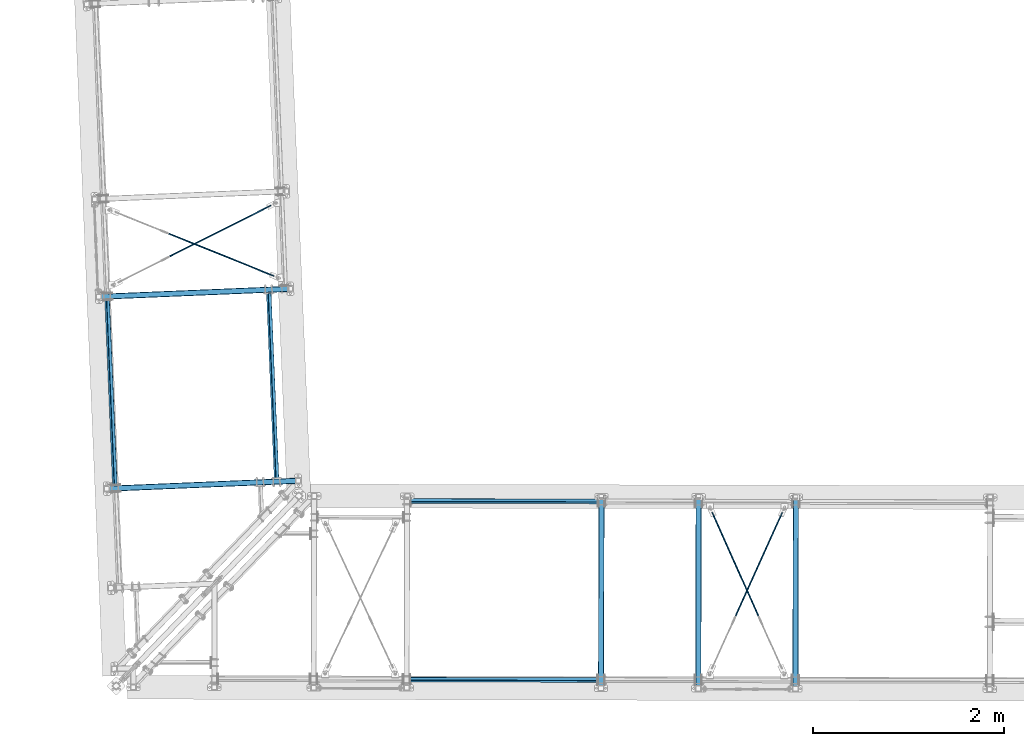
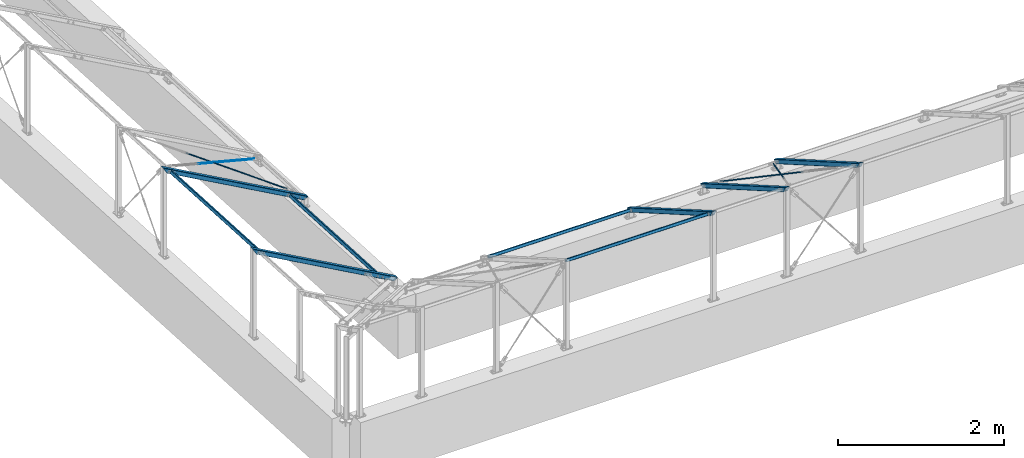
# One storey, part 11 of 288: 11 members, 2 beams, 48 openings.
"""IFC2X3 building model written with IfcOpenShell, lengths in millimetres."""

from ifc_helpers import new_model, entity, si_unit, converted_unit, frame, frame_2d, origin, origin_with_axes, origin_2d, place, context, project, spatial, hollow_rectangle, circle, extrude, clip, halfspace, material, element, save


model = new_model("IFC2X3")

# Units and contexts
model_context = context("Model", 3, precision=1e-09, world=origin_with_axes())
ifc_project = project(units=[si_unit("LENGTHUNIT", "METRE", prefix="MILLI"), si_unit("AREAUNIT", "SQUARE_METRE"), si_unit("VOLUMEUNIT", "CUBIC_METRE"), converted_unit("PLANEANGLEUNIT", "DEGREE", entity("IfcPlaneAngleMeasure", 0.01745329), si_unit("PLANEANGLEUNIT", "RADIAN"), dimensions=[0, 0, 0, 0, 0, 0, 0])], contexts=[model_context])

# Site, building, storey
site_placement = place(None, origin_with_axes())
site = spatial("IfcSite", under=ifc_project, at=site_placement, Name="Remont ?wietlik?w nad MC w NCPP w Opolu", CompositionType="ELEMENT")
building_placement = place(site_placement, origin_with_axes())
building = spatial("IfcBuilding", under=site, at=building_placement, Name="Konstrukcja 1", CompositionType="ELEMENT")
storey_placement = place(building_placement, origin_with_axes())
storey = spatial("IfcBuildingStorey", under=building, at=storey_placement, Name="Default Storey", CompositionType="ELEMENT", Elevation=0.0)

# Member
ifc_material_1 = material(Name="S235")
member_1_placement = place(None, frame((1573.150297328, 2069.777775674, 236.909271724), z_axis=(0.041662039, -0.99913176, -1.7444e-05), x_axis=(0.8652733, 0.036089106, -0.499999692)))
element("IfcMember", 1, at=member_1_placement, inside=storey, material=ifc_material_1, Name="TubeBracing", ObjectType="TubeBracing", context=model_context, shape_type="SweptSolid", body=[
    extrude(hollow_rectangle(XDim=40.0, YDim=40.0, WallThickness=3.0, InnerFilletRadius=3.0, OuterFilletRadius=6.0, at=origin_2d()), origin(), (0.0, 0.0, -1.0), 1936.778831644),
])

# Member, openings
member_2_placement = place(None, frame((-364.054229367, 3966.477681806, 1312.426370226), z_axis=(-0.865273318, -0.036088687, 0.499999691), x_axis=(-0.499565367, -0.020835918, -0.866025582)))
member_2 = element("IfcMember", 2, at=member_2_placement, inside=storey, material=ifc_material_1, Name="Horizontal_Beam", ObjectType="Horizontal_Beam", context=model_context, shape_type="Clipping", body=[
    clip(clip(extrude(hollow_rectangle(XDim=60.0, YDim=60.0, WallThickness=3.0, InnerFilletRadius=3.0, OuterFilletRadius=6.0, at=origin_2d()), origin(), (0.0, 0.0, -1.0), 2454.508604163), halfspace(frame((1461.081476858, 3978.202794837, -1561.961589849), z_axis=(-0.500000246, 0.0, 0.866025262), x_axis=(1.22e-07, 1.0, 0.0)), True)), halfspace(frame((581.166779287, 3978.202901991, -1091.464010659), z_axis=(-0.866025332, 1.05e-07, -0.500000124), x_axis=(-1.22e-07, -1.0, 0.0)), True)),
])
opening_1_placement = place(member_2_placement, frame((3.04424477, 26.5, -2312.551958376), z_axis=(0.0, -1.0, 0.0), x_axis=(1.0, 0.0, 0.0)))
element("IfcOpeningElement", 3, at=opening_1_placement, cuts=member_2, ObjectType="Opening", context=model_context, shape_type="SweptSolid", body=[
    extrude(circle(Radius=7.001, at=frame_2d((0.0, 7.001), x_axis=(1.0, 0.0))), origin(), (0.0, 0.0, -1.0), 4.0),
])
opening_2_placement = place(member_2_placement, frame((3.04424477, 26.5, -2392.551958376), z_axis=(0.0, -1.0, 0.0), x_axis=(1.0, 0.0, 0.0)))
element("IfcOpeningElement", 4, at=opening_2_placement, cuts=member_2, ObjectType="Opening", context=model_context, shape_type="SweptSolid", body=[
    extrude(circle(Radius=7.001, at=frame_2d((0.0, 7.001), x_axis=(1.0, 0.0))), origin(), (0.0, 0.0, -1.0), 4.0),
])
opening_3_placement = place(member_2_placement, frame((3.04424477, -30.5, -2312.551958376), z_axis=(0.0, -1.0, 0.0), x_axis=(1.0, 0.0, 0.0)))
element("IfcOpeningElement", 5, at=opening_3_placement, cuts=member_2, ObjectType="Opening", context=model_context, shape_type="SweptSolid", body=[
    extrude(circle(Radius=7.001, at=frame_2d((0.0, 7.001), x_axis=(1.0, 0.0))), origin(), (0.0, 0.0, -1.0), 4.0),
])
opening_4_placement = place(member_2_placement, frame((3.04424477, -30.5, -2392.551958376), z_axis=(0.0, -1.0, 0.0), x_axis=(1.0, 0.0, 0.0)))
element("IfcOpeningElement", 6, at=opening_4_placement, cuts=member_2, ObjectType="Opening", context=model_context, shape_type="SweptSolid", body=[
    extrude(circle(Radius=7.001, at=frame_2d((0.0, 7.001), x_axis=(1.0, 0.0))), origin(), (0.0, 0.0, -1.0), 4.0),
])
opening_5_placement = place(member_2_placement, frame((7.044933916, 26.499732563, -144.777628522), z_axis=(-2.0054e-05, -1.0, 4.2e-07), x_axis=(1.0, -2.0054e-05, 0.0)))
element("IfcOpeningElement", 7, at=opening_5_placement, cuts=member_2, ObjectType="Opening", context=model_context, shape_type="SweptSolid", body=[
    extrude(circle(Radius=7.001, at=frame_2d((-7.001, -4e-09), x_axis=(1.0, 0.0))), origin(), (0.0, 0.0, -1.0), 4.000264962),
])
opening_6_placement = place(member_2_placement, frame((7.043790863, -30.500267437, -144.77760456), z_axis=(-2.0054e-05, -1.0, 4.2e-07), x_axis=(1.0, -2.0054e-05, 0.0)))
element("IfcOpeningElement", 8, at=opening_6_placement, cuts=member_2, ObjectType="Opening", context=model_context, shape_type="SweptSolid", body=[
    extrude(circle(Radius=7.001, at=frame_2d((-7.001, -4e-09), x_axis=(1.0, 0.0))), origin(), (0.0, 0.0, -1.0), 4.000264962),
])
opening_7_placement = place(member_2_placement, frame((7.044933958, 26.499732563, -224.777628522), z_axis=(-2.0054e-05, -1.0, 4.2e-07), x_axis=(1.0, -2.0054e-05, 0.0)))
element("IfcOpeningElement", 9, at=opening_7_placement, cuts=member_2, ObjectType="Opening", context=model_context, shape_type="SweptSolid", body=[
    extrude(circle(Radius=7.001, at=frame_2d((-7.001, -4e-09), x_axis=(1.0, 0.0))), origin(), (0.0, 0.0, -1.0), 4.000264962),
])
opening_8_placement = place(member_2_placement, frame((7.043790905, -30.500267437, -224.77760456), z_axis=(-2.0054e-05, -1.0, 4.2e-07), x_axis=(1.0, -2.0054e-05, 0.0)))
element("IfcOpeningElement", 10, at=opening_8_placement, cuts=member_2, ObjectType="Opening", context=model_context, shape_type="SweptSolid", body=[
    extrude(circle(Radius=7.001, at=frame_2d((-7.001, -4e-09), x_axis=(1.0, 0.0))), origin(), (0.0, 0.0, -1.0), 4.000264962),
])
opening_9_placement = place(member_2_placement, frame((3.070957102, 26.5, -2114.520384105), z_axis=(0.0, -1.0, 0.0), x_axis=(1.0, 0.0, 0.0)))
element("IfcOpeningElement", 11, at=opening_9_placement, cuts=member_2, ObjectType="Opening", context=model_context, shape_type="SweptSolid", body=[
    extrude(circle(Radius=9.001, at=frame_2d((0.0, 9.001), x_axis=(1.0, 0.0))), origin(), (0.0, 0.0, -1.0), 4.0),
])
opening_10_placement = place(member_2_placement, frame((3.070957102, 26.5, -2194.520384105), z_axis=(0.0, -1.0, 0.0), x_axis=(1.0, 0.0, 0.0)))
element("IfcOpeningElement", 12, at=opening_10_placement, cuts=member_2, ObjectType="Opening", context=model_context, shape_type="SweptSolid", body=[
    extrude(circle(Radius=9.001, at=frame_2d((0.0, 9.001), x_axis=(1.0, 0.0))), origin(), (0.0, 0.0, -1.0), 4.0),
])
opening_11_placement = place(member_2_placement, frame((3.070957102, -30.5, -2114.520384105), z_axis=(0.0, -1.0, 0.0), x_axis=(1.0, 0.0, 0.0)))
element("IfcOpeningElement", 13, at=opening_11_placement, cuts=member_2, ObjectType="Opening", context=model_context, shape_type="SweptSolid", body=[
    extrude(circle(Radius=9.001, at=frame_2d((0.0, 9.001), x_axis=(1.0, 0.0))), origin(), (0.0, 0.0, -1.0), 4.0),
])
opening_12_placement = place(member_2_placement, frame((3.070957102, -30.5, -2194.520384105), z_axis=(0.0, -1.0, 0.0), x_axis=(1.0, 0.0, 0.0)))
element("IfcOpeningElement", 14, at=opening_12_placement, cuts=member_2, ObjectType="Opening", context=model_context, shape_type="SweptSolid", body=[
    extrude(circle(Radius=9.001, at=frame_2d((0.0, 9.001), x_axis=(1.0, 0.0))), origin(), (0.0, 0.0, -1.0), 4.0),
])

member_3_placement = place(None, frame((-280.132214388, 1953.447401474, 1312.428468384), z_axis=(-0.865263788, -0.036088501, 0.500016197), x_axis=(-0.499581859, -0.020836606, -0.866016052)))
member_3 = element("IfcMember", 15, at=member_3_placement, inside=storey, material=ifc_material_1, Name="Horizontal_Beam", ObjectType="Horizontal_Beam", context=model_context, shape_type="Clipping", body=[
    clip(clip(extrude(hollow_rectangle(XDim=60.0, YDim=60.0, WallThickness=3.0, InnerFilletRadius=3.0, OuterFilletRadius=6.0, at=origin_2d()), origin(), (0.0, 0.0, -1.0), 2454.535264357), halfspace(frame((1461.046745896, 1963.424171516, -1562.027064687), z_axis=(-0.499991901, 0.0, 0.86603008), x_axis=(0.0, 1.0, 0.0)), True)), halfspace(frame((581.168314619, 1963.424171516, -1091.490976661), z_axis=(-0.86603008, 0.0, -0.499991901), x_axis=(0.0, -1.0, 0.0)), True)),
])
opening_13_placement = place(member_3_placement, frame((7.043791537, 26.499731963, -144.779152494), z_axis=(-2.0054e-05, -1.0, 2.1e-07), x_axis=(1.0, -2.0054e-05, 0.0)))
element("IfcOpeningElement", 16, at=opening_13_placement, cuts=member_3, ObjectType="Opening", context=model_context, shape_type="SweptSolid", body=[
    extrude(circle(Radius=7.001, at=frame_2d((-7.000999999, 0.000133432), x_axis=(1.0, 0.0))), origin(), (0.0, 0.0, -1.0), 4.000265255),
])
opening_14_placement = place(member_3_placement, frame((7.042648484, -30.500268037, -144.779140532), z_axis=(-2.0054e-05, -1.0, 2.1e-07), x_axis=(1.0, -2.0054e-05, 0.0)))
element("IfcOpeningElement", 17, at=opening_14_placement, cuts=member_3, ObjectType="Opening", context=model_context, shape_type="SweptSolid", body=[
    extrude(circle(Radius=7.001, at=frame_2d((-7.000999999, 0.000133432), x_axis=(1.0, 0.0))), origin(), (0.0, 0.0, -1.0), 4.000265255),
])
opening_15_placement = place(member_3_placement, frame((7.04226682, 26.499731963, -224.77915248), z_axis=(-2.0054e-05, -1.0, 2.1e-07), x_axis=(1.0, -2.0054e-05, 0.0)))
element("IfcOpeningElement", 18, at=opening_15_placement, cuts=member_3, ObjectType="Opening", context=model_context, shape_type="SweptSolid", body=[
    extrude(circle(Radius=7.001, at=frame_2d((-7.000999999, 0.000133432), x_axis=(1.0, 0.0))), origin(), (0.0, 0.0, -1.0), 4.000265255),
])
opening_16_placement = place(member_3_placement, frame((7.041123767, -30.500268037, -224.779140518), z_axis=(-2.0054e-05, -1.0, 2.1e-07), x_axis=(1.0, -2.0054e-05, 0.0)))
element("IfcOpeningElement", 19, at=opening_16_placement, cuts=member_3, ObjectType="Opening", context=model_context, shape_type="SweptSolid", body=[
    extrude(circle(Radius=7.001, at=frame_2d((-7.000999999, 0.000133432), x_axis=(1.0, 0.0))), origin(), (0.0, 0.0, -1.0), 4.000265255),
])
opening_17_placement = place(member_3_placement, frame((3.051859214, 30.500010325, -2145.553437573), z_axis=(0.0, -1.0, -2.11e-07), x_axis=(1.9059e-05, -2.11e-07, 1.0)))
element("IfcOpeningElement", 20, at=opening_17_placement, cuts=member_3, ObjectType="Opening", context=model_context, shape_type="SweptSolid", body=[
    extrude(circle(Radius=9.001, at=frame_2d((40.0, 0.0), x_axis=(1.0, 0.0))), origin(), (0.0, 0.0, 1.0), 4.000020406),
])
opening_18_placement = place(member_3_placement, frame((3.051859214, 30.500010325, -2145.553437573), z_axis=(0.0, -1.0, -2.11e-07), x_axis=(1.9059e-05, -2.11e-07, 1.0)))
element("IfcOpeningElement", 21, at=opening_18_placement, cuts=member_3, ObjectType="Opening", context=model_context, shape_type="SweptSolid", body=[
    extrude(circle(Radius=9.001, at=frame_2d((-40.0, 0.0), x_axis=(1.0, 0.0))), origin(), (0.0, 0.0, 1.0), 4.000020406),
])
opening_19_placement = place(member_3_placement, frame((3.051859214, -26.499989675, -2145.553449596), z_axis=(0.0, -1.0, -2.11e-07), x_axis=(1.9059e-05, -2.11e-07, 1.0)))
element("IfcOpeningElement", 22, at=opening_19_placement, cuts=member_3, ObjectType="Opening", context=model_context, shape_type="SweptSolid", body=[
    extrude(circle(Radius=9.001, at=frame_2d((40.0, 0.0), x_axis=(1.0, 0.0))), origin(), (0.0, 0.0, 1.0), 4.000020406),
])
opening_20_placement = place(member_3_placement, frame((3.051859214, -26.499989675, -2145.553449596), z_axis=(0.0, -1.0, -2.11e-07), x_axis=(1.9059e-05, -2.11e-07, 1.0)))
element("IfcOpeningElement", 23, at=opening_20_placement, cuts=member_3, ObjectType="Opening", context=model_context, shape_type="SweptSolid", body=[
    extrude(circle(Radius=9.001, at=frame_2d((-40.0, 0.0), x_axis=(1.0, 0.0))), origin(), (0.0, 0.0, 1.0), 4.000020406),
])
opening_21_placement = place(member_3_placement, frame((3.017482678, 26.499983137, -1914.554470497), z_axis=(0.0, -1.0, -2.11e-07), x_axis=(1.0, 0.0, 0.0)))
element("IfcOpeningElement", 24, at=opening_21_placement, cuts=member_3, ObjectType="Opening", context=model_context, shape_type="SweptSolid", body=[
    extrude(circle(Radius=9.001, at=frame_2d((0.000171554, 9.000999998), x_axis=(1.0, 0.0))), origin(), (0.0, 0.0, -1.0), 4.000020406),
])
opening_22_placement = place(member_3_placement, frame((3.01595792, 26.500000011, -1994.554470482), z_axis=(0.0, -1.0, -2.11e-07), x_axis=(1.0, 0.0, 0.0)))
element("IfcOpeningElement", 25, at=opening_22_placement, cuts=member_3, ObjectType="Opening", context=model_context, shape_type="SweptSolid", body=[
    extrude(circle(Radius=9.001, at=frame_2d((0.000171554, 9.000999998), x_axis=(1.0, 0.0))), origin(), (0.0, 0.0, -1.0), 4.000020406),
])
opening_23_placement = place(member_3_placement, frame((3.017482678, -30.500016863, -1914.554482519), z_axis=(0.0, -1.0, -2.11e-07), x_axis=(1.0, 0.0, 0.0)))
element("IfcOpeningElement", 26, at=opening_23_placement, cuts=member_3, ObjectType="Opening", context=model_context, shape_type="SweptSolid", body=[
    extrude(circle(Radius=9.001, at=frame_2d((0.000171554, 9.000999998), x_axis=(1.0, 0.0))), origin(), (0.0, 0.0, -1.0), 4.000020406),
])
opening_24_placement = place(member_3_placement, frame((3.015957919, -30.499999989, -1994.554482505), z_axis=(0.0, -1.0, -2.11e-07), x_axis=(1.0, 0.0, 0.0)))
element("IfcOpeningElement", 27, at=opening_24_placement, cuts=member_3, ObjectType="Opening", context=model_context, shape_type="SweptSolid", body=[
    extrude(circle(Radius=9.001, at=frame_2d((0.000171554, 9.000999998), x_axis=(1.0, 0.0))), origin(), (0.0, 0.0, -1.0), 4.000020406),
])

member_4_placement = place(None, frame((4977.200241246, -209.690564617, 1312.426370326), z_axis=(0.00195866, 0.866023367, -0.499999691), x_axis=(-0.001130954, -0.499998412, -0.866025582)))
member_4 = element("IfcMember", 28, at=member_4_placement, inside=storey, material=ifc_material_1, Name="Horizontal_Beam", ObjectType="Horizontal_Beam", context=model_context, shape_type="Clipping", body=[
    clip(clip(extrude(hollow_rectangle(XDim=60.0, YDim=60.0, WallThickness=3.0, InnerFilletRadius=3.0, OuterFilletRadius=6.0, at=origin_2d()), origin(), (0.0, 0.0, 1.0), 2454.508604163), halfspace(frame((581.163103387, 4977.661690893, 1091.457433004), z_axis=(-0.866025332, 1.05e-07, 0.500000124), x_axis=(1.22e-07, 1.0, 0.0)), True)), halfspace(frame((1461.09299157, 4977.661583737, 1561.955012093), z_axis=(-0.500000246, 0.0, -0.866025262), x_axis=(-1.22e-07, -1.0, 0.0)), True)),
])
opening_25_placement = place(member_4_placement, frame((-0.000146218, -30.5, 184.866468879), z_axis=(0.0, 1.0, 0.0), x_axis=(0.0, 0.0, -1.0)))
element("IfcOpeningElement", 29, at=opening_25_placement, cuts=member_4, ObjectType="Opening", context=model_context, shape_type="SweptSolid", body=[
    extrude(circle(Radius=7.001, at=frame_2d((40.0, 0.0), x_axis=(1.0, 0.0))), origin(), (0.0, 0.0, 1.0), 4.0),
])
opening_26_placement = place(member_4_placement, frame((-0.000146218, -30.5, 184.866468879), z_axis=(0.0, 1.0, 0.0), x_axis=(0.0, 0.0, -1.0)))
element("IfcOpeningElement", 30, at=opening_26_placement, cuts=member_4, ObjectType="Opening", context=model_context, shape_type="SweptSolid", body=[
    extrude(circle(Radius=7.001, at=frame_2d((-40.0, 0.0), x_axis=(1.0, 0.0))), origin(), (0.0, 0.0, 1.0), 4.0),
])
opening_27_placement = place(member_4_placement, frame((-0.000146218, 26.5, 184.866468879), z_axis=(0.0, 1.0, 0.0), x_axis=(0.0, 0.0, -1.0)))
element("IfcOpeningElement", 31, at=opening_27_placement, cuts=member_4, ObjectType="Opening", context=model_context, shape_type="SweptSolid", body=[
    extrude(circle(Radius=7.001, at=frame_2d((40.0, 0.0), x_axis=(1.0, 0.0))), origin(), (0.0, 0.0, 1.0), 4.0),
])
opening_28_placement = place(member_4_placement, frame((-0.000146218, 26.5, 184.866468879), z_axis=(0.0, 1.0, 0.0), x_axis=(0.0, 0.0, -1.0)))
element("IfcOpeningElement", 32, at=opening_28_placement, cuts=member_4, ObjectType="Opening", context=model_context, shape_type="SweptSolid", body=[
    extrude(circle(Radius=7.001, at=frame_2d((-40.0, 0.0), x_axis=(1.0, 0.0))), origin(), (0.0, 0.0, 1.0), 4.0),
])
opening_29_placement = place(member_4_placement, frame((-0.000146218, -30.5, 2348.176615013), z_axis=(0.0, 1.0, 0.0), x_axis=(0.0, 0.0, -1.0)))
element("IfcOpeningElement", 33, at=opening_29_placement, cuts=member_4, ObjectType="Opening", context=model_context, shape_type="SweptSolid", body=[
    extrude(circle(Radius=7.001, at=frame_2d((40.0, 0.0), x_axis=(1.0, 0.0))), origin(), (0.0, 0.0, 1.0), 4.0),
])
opening_30_placement = place(member_4_placement, frame((-0.000146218, -30.5, 2348.176615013), z_axis=(0.0, 1.0, 0.0), x_axis=(0.0, 0.0, -1.0)))
element("IfcOpeningElement", 34, at=opening_30_placement, cuts=member_4, ObjectType="Opening", context=model_context, shape_type="SweptSolid", body=[
    extrude(circle(Radius=7.001, at=frame_2d((-40.0, 0.0), x_axis=(1.0, 0.0))), origin(), (0.0, 0.0, 1.0), 4.0),
])
opening_31_placement = place(member_4_placement, frame((-0.000146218, 26.5, 2348.176615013), z_axis=(0.0, 1.0, 0.0), x_axis=(0.0, 0.0, -1.0)))
element("IfcOpeningElement", 35, at=opening_31_placement, cuts=member_4, ObjectType="Opening", context=model_context, shape_type="SweptSolid", body=[
    extrude(circle(Radius=7.001, at=frame_2d((40.0, 0.0), x_axis=(1.0, 0.0))), origin(), (0.0, 0.0, 1.0), 4.0),
])
opening_32_placement = place(member_4_placement, frame((-0.000146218, 26.5, 2348.176615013), z_axis=(0.0, 1.0, 0.0), x_axis=(0.0, 0.0, -1.0)))
element("IfcOpeningElement", 36, at=opening_32_placement, cuts=member_4, ObjectType="Opening", context=model_context, shape_type="SweptSolid", body=[
    extrude(circle(Radius=7.001, at=frame_2d((-40.0, 0.0), x_axis=(1.0, 0.0))), origin(), (0.0, 0.0, 1.0), 4.0),
])

member_5_placement = place(None, frame((5996.654635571, -212.004131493, 1312.42637032), z_axis=(-0.001959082, -0.866023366, 0.499999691), x_axis=(-0.001130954, -0.499998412, -0.866025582)))
member_5 = element("IfcMember", 37, at=member_5_placement, inside=storey, material=ifc_material_1, Name="Horizontal_Beam", ObjectType="Horizontal_Beam", context=model_context, shape_type="Clipping", body=[
    clip(clip(extrude(hollow_rectangle(XDim=60.0, YDim=60.0, WallThickness=3.0, InnerFilletRadius=3.0, OuterFilletRadius=6.0, at=origin_2d()), origin(), (0.0, 0.0, -1.0), 2454.508604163), halfspace(frame((1461.087924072, -5997.11905577, -1561.957166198), z_axis=(-0.500000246, 0.0, 0.866025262), x_axis=(1.22e-07, 1.0, 0.0)), True)), halfspace(frame((581.163010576, -5997.118948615, -1091.459587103), z_axis=(-0.866025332, 1.05e-07, -0.500000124), x_axis=(-1.22e-07, -1.0, 0.0)), True)),
])
opening_33_placement = place(member_5_placement, frame((-0.000146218, 30.5, -184.873306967), z_axis=(0.0, -1.0, 0.0), x_axis=(0.0, 0.0, 1.0)))
element("IfcOpeningElement", 38, at=opening_33_placement, cuts=member_5, ObjectType="Opening", context=model_context, shape_type="SweptSolid", body=[
    extrude(circle(Radius=7.001, at=frame_2d((40.0, 0.0), x_axis=(1.0, 0.0))), origin(), (0.0, 0.0, 1.0), 4.0),
])
opening_34_placement = place(member_5_placement, frame((-0.000146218, 30.5, -184.873306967), z_axis=(0.0, -1.0, 0.0), x_axis=(0.0, 0.0, 1.0)))
element("IfcOpeningElement", 39, at=opening_34_placement, cuts=member_5, ObjectType="Opening", context=model_context, shape_type="SweptSolid", body=[
    extrude(circle(Radius=7.001, at=frame_2d((-40.0, 0.0), x_axis=(1.0, 0.0))), origin(), (0.0, 0.0, 1.0), 4.0),
])
opening_35_placement = place(member_5_placement, frame((-0.000146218, -26.5, -184.873306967), z_axis=(0.0, -1.0, 0.0), x_axis=(0.0, 0.0, 1.0)))
element("IfcOpeningElement", 40, at=opening_35_placement, cuts=member_5, ObjectType="Opening", context=model_context, shape_type="SweptSolid", body=[
    extrude(circle(Radius=7.001, at=frame_2d((40.0, 0.0), x_axis=(1.0, 0.0))), origin(), (0.0, 0.0, 1.0), 4.0),
])
opening_36_placement = place(member_5_placement, frame((-0.000146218, -26.5, -184.873306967), z_axis=(0.0, -1.0, 0.0), x_axis=(0.0, 0.0, 1.0)))
element("IfcOpeningElement", 41, at=opening_36_placement, cuts=member_5, ObjectType="Opening", context=model_context, shape_type="SweptSolid", body=[
    extrude(circle(Radius=7.001, at=frame_2d((-40.0, 0.0), x_axis=(1.0, 0.0))), origin(), (0.0, 0.0, 1.0), 4.0),
])
opening_37_placement = place(member_5_placement, frame((-0.000146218, 30.5, -2348.1834531), z_axis=(0.0, -1.0, 0.0), x_axis=(0.0, 0.0, 1.0)))
element("IfcOpeningElement", 42, at=opening_37_placement, cuts=member_5, ObjectType="Opening", context=model_context, shape_type="SweptSolid", body=[
    extrude(circle(Radius=7.001, at=frame_2d((40.0, 0.0), x_axis=(1.0, 0.0))), origin(), (0.0, 0.0, 1.0), 4.0),
])
opening_38_placement = place(member_5_placement, frame((-0.000146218, 30.5, -2348.1834531), z_axis=(0.0, -1.0, 0.0), x_axis=(0.0, 0.0, 1.0)))
element("IfcOpeningElement", 43, at=opening_38_placement, cuts=member_5, ObjectType="Opening", context=model_context, shape_type="SweptSolid", body=[
    extrude(circle(Radius=7.001, at=frame_2d((-40.0, 0.0), x_axis=(1.0, 0.0))), origin(), (0.0, 0.0, 1.0), 4.0),
])
opening_39_placement = place(member_5_placement, frame((-0.000146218, -26.5, -2348.1834531), z_axis=(0.0, -1.0, 0.0), x_axis=(0.0, 0.0, 1.0)))
element("IfcOpeningElement", 44, at=opening_39_placement, cuts=member_5, ObjectType="Opening", context=model_context, shape_type="SweptSolid", body=[
    extrude(circle(Radius=7.001, at=frame_2d((40.0, 0.0), x_axis=(1.0, 0.0))), origin(), (0.0, 0.0, 1.0), 4.0),
])
opening_40_placement = place(member_5_placement, frame((-0.000146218, -26.5, -2348.1834531), z_axis=(0.0, -1.0, 0.0), x_axis=(0.0, 0.0, 1.0)))
element("IfcOpeningElement", 45, at=opening_40_placement, cuts=member_5, ObjectType="Opening", context=model_context, shape_type="SweptSolid", body=[
    extrude(circle(Radius=7.001, at=frame_2d((-40.0, 0.0), x_axis=(1.0, 0.0))), origin(), (0.0, 0.0, 1.0), 4.0),
])

member_6_placement = place(None, frame((7016.109184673, -214.302403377, 1312.426370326), z_axis=(-0.001959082, -0.866023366, 0.499999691), x_axis=(-0.001130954, -0.499998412, -0.866025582)))
member_6 = element("IfcMember", 46, at=member_6_placement, inside=storey, material=ifc_material_1, Name="Horizontal_Beam", ObjectType="Horizontal_Beam", context=model_context, shape_type="Clipping", body=[
    clip(clip(extrude(hollow_rectangle(XDim=60.0, YDim=60.0, WallThickness=3.0, InnerFilletRadius=3.0, OuterFilletRadius=6.0, at=origin_2d()), origin(), (0.0, 0.0, -1.0), 2454.508604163), halfspace(frame((1461.093721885, -7016.576195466, -1561.953747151), z_axis=(-0.500000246, 0.0, 0.866025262), x_axis=(1.22e-07, 1.0, 0.0)), True)), halfspace(frame((581.160912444, -7016.57608831, -1091.456168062), z_axis=(-0.866025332, 1.05e-07, -0.500000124), x_axis=(-1.22e-07, -1.0, 0.0)), True)),
])
opening_41_placement = place(member_6_placement, frame((-0.000146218, 26.5, -2315.177615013), z_axis=(0.0, -1.0, 0.0), x_axis=(1.0, 0.0, 0.0)))
element("IfcOpeningElement", 47, at=opening_41_placement, cuts=member_6, ObjectType="Opening", context=model_context, shape_type="SweptSolid", body=[
    extrude(circle(Radius=7.001, at=frame_2d((0.0, 7.001), x_axis=(1.0, 0.0))), origin(), (0.0, 0.0, -1.0), 4.0),
])
opening_42_placement = place(member_6_placement, frame((-0.000146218, 26.5, -2395.177615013), z_axis=(0.0, -1.0, 0.0), x_axis=(1.0, 0.0, 0.0)))
element("IfcOpeningElement", 48, at=opening_42_placement, cuts=member_6, ObjectType="Opening", context=model_context, shape_type="SweptSolid", body=[
    extrude(circle(Radius=7.001, at=frame_2d((0.0, 7.001), x_axis=(1.0, 0.0))), origin(), (0.0, 0.0, -1.0), 4.0),
])
opening_43_placement = place(member_6_placement, frame((-0.000146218, -30.5, -2315.177615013), z_axis=(0.0, -1.0, 0.0), x_axis=(1.0, 0.0, 0.0)))
element("IfcOpeningElement", 49, at=opening_43_placement, cuts=member_6, ObjectType="Opening", context=model_context, shape_type="SweptSolid", body=[
    extrude(circle(Radius=7.001, at=frame_2d((0.0, 7.001), x_axis=(1.0, 0.0))), origin(), (0.0, 0.0, -1.0), 4.0),
])
opening_44_placement = place(member_6_placement, frame((-0.000146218, -30.5, -2395.177615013), z_axis=(0.0, -1.0, 0.0), x_axis=(1.0, 0.0, 0.0)))
element("IfcOpeningElement", 50, at=opening_44_placement, cuts=member_6, ObjectType="Opening", context=model_context, shape_type="SweptSolid", body=[
    extrude(circle(Radius=7.001, at=frame_2d((0.0, 7.001), x_axis=(1.0, 0.0))), origin(), (0.0, 0.0, -1.0), 4.0),
])
opening_45_placement = place(member_6_placement, frame((-0.000146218, 26.5, -151.867468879), z_axis=(0.0, -1.0, 0.0), x_axis=(1.0, 0.0, 0.0)))
element("IfcOpeningElement", 51, at=opening_45_placement, cuts=member_6, ObjectType="Opening", context=model_context, shape_type="SweptSolid", body=[
    extrude(circle(Radius=7.001, at=frame_2d((0.0, 7.001), x_axis=(1.0, 0.0))), origin(), (0.0, 0.0, -1.0), 4.0),
])
opening_46_placement = place(member_6_placement, frame((-0.000146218, 26.5, -231.867468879), z_axis=(0.0, -1.0, 0.0), x_axis=(1.0, 0.0, 0.0)))
element("IfcOpeningElement", 52, at=opening_46_placement, cuts=member_6, ObjectType="Opening", context=model_context, shape_type="SweptSolid", body=[
    extrude(circle(Radius=7.001, at=frame_2d((0.0, 7.001), x_axis=(1.0, 0.0))), origin(), (0.0, 0.0, -1.0), 4.0),
])
opening_47_placement = place(member_6_placement, frame((-0.000146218, -30.5, -151.867468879), z_axis=(0.0, -1.0, 0.0), x_axis=(1.0, 0.0, 0.0)))
element("IfcOpeningElement", 53, at=opening_47_placement, cuts=member_6, ObjectType="Opening", context=model_context, shape_type="SweptSolid", body=[
    extrude(circle(Radius=7.001, at=frame_2d((0.0, 7.001), x_axis=(1.0, 0.0))), origin(), (0.0, 0.0, -1.0), 4.0),
])
opening_48_placement = place(member_6_placement, frame((-0.000146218, -30.5, -231.867468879), z_axis=(0.0, -1.0, 0.0), x_axis=(1.0, 0.0, 0.0)))
element("IfcOpeningElement", 54, at=opening_48_placement, cuts=member_6, ObjectType="Opening", context=model_context, shape_type="SweptSolid", body=[
    extrude(circle(Radius=7.001, at=frame_2d((0.0, 7.001), x_axis=(1.0, 0.0))), origin(), (0.0, 0.0, -1.0), 4.0),
])

# Members
member_7_placement = place(None, frame((-121.955654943, 1999.078574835, 1219.893294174), z_axis=(0.041662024, -0.999131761, -1.7472e-05), x_axis=(0.8652733, 0.036089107, -0.499999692)))
element("IfcMember", 55, at=member_7_placement, inside=storey, material=ifc_material_1, Name="TubeBracing", ObjectType="TubeBracing", context=model_context, shape_type="SweptSolid", body=[
    extrude(hollow_rectangle(XDim=40.0, YDim=40.0, WallThickness=3.0, InnerFilletRadius=3.0, OuterFilletRadius=6.0, at=origin_2d()), origin(), (0.0, 0.0, -1.0), 1936.778831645),
])
ifc_material_2 = material(Name="S275J2")
member_8_placement = place(None, frame((382.467992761, 4657.165420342, 873.132942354), z_axis=(-0.820210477, 0.330857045, 0.466678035), x_axis=(0.500767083, 0.020865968, 0.865330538)))
element("IfcMember", 56, at=member_8_placement, inside=storey, material=ifc_material_2, Name="Tension_Rod#2", ObjectType="Tension_Rod#2", context=model_context, shape_type="Clipping", body=[
    clip(clip(extrude(circle(Radius=6.0, at=origin_2d()), origin(), (0.0, 0.0, -1.0), 1549.666029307), halfspace(frame((-1044.252245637, -4339.974107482, -33.486281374), z_axis=(0.0, 0.0, -1.0), x_axis=(0.206683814, 0.978407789, 0.0)), True)), halfspace(frame((-1044.252245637, -4339.974107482, -1421.179747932), z_axis=(0.0, 0.0, 1.0), x_axis=(-0.206683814, -0.978407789, 0.0)), True)),
])
member_9_placement = place(None, frame((394.69582176, 4363.919651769, 873.127814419), z_axis=(-0.789818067, -0.398008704, 0.466665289), x_axis=(-0.500767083, -0.020865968, -0.865330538)))
element("IfcMember", 57, at=member_9_placement, inside=storey, material=ifc_material_2, Name="Tension_Rod#2", ObjectType="Tension_Rod#2", context=model_context, shape_type="Clipping", body=[
    clip(clip(extrude(circle(Radius=6.0, at=origin_2d()), origin(), (0.0, 0.0, -1.0), 1549.666029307), halfspace(frame((1044.252245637, 4022.197304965, -33.486281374), z_axis=(0.0, 0.0, -1.0), x_axis=(0.20671903, -0.978400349, 0.0)), True)), halfspace(frame((1044.252245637, 4022.197304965, -1421.179747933), z_axis=(0.0, 0.0, 1.0), x_axis=(-0.20671903, 0.978400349, 0.0)), True)),
])

# Beams
beam_1_placement = place(None, frame((5010.083688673, 1823.817873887, 138.332044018), z_axis=(0.999997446, -0.002260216, 3.354e-06), x_axis=(0.001959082, 0.866023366, -0.499999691)))
element("IfcBeam", 58, at=beam_1_placement, inside=storey, material=ifc_material_1, Name="TubeBracing", ObjectType="TubeBracing", context=model_context, shape_type="Clipping", body=[
    clip(extrude(hollow_rectangle(XDim=40.0, YDim=40.0, WallThickness=3.0, InnerFilletRadius=3.0, OuterFilletRadius=6.0, at=origin_2d()), origin(), (0.0, 0.0, -1.0), 2028.19765609), halfspace(frame((-1520.115997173, -1037.371051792, -67.288571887), z_axis=(-4.22e-07, 3.751e-06, -1.0), x_axis=(-0.866025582, -0.499999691, -1.51e-06)), True)),
])
beam_2_placement = place(None, frame((5005.846565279, -49.659262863, 1219.98644965), z_axis=(0.999997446, -0.002260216, 3.354e-06), x_axis=(0.001959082, 0.866023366, -0.499999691)))
element("IfcBeam", 59, at=beam_2_placement, inside=storey, material=ifc_material_1, Name="TubeBracing", ObjectType="TubeBracing", context=model_context, shape_type="Clipping", body=[
    clip(extrude(hollow_rectangle(XDim=40.0, YDim=40.0, WallThickness=3.0, InnerFilletRadius=3.0, OuterFilletRadius=6.0, at=origin_2d()), origin(), (0.0, 0.0, -1.0), 2028.198635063), halfspace(frame((643.19414896, -1037.371051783, -67.289550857), z_axis=(-4.22e-07, 3.751e-06, -1.0), x_axis=(-0.866025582, -0.499999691, -1.51e-06)), True)),
])

# Members
member_10_placement = place(None, frame((6362.182004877, 563.051838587, 873.710941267), z_axis=(-0.364334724, -0.806297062, 0.465988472), x_axis=(0.001127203, 0.499998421, 0.866025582)))
element("IfcMember", 60, at=member_10_placement, inside=storey, material=ifc_material_2, Name="Tension_Rod#2", ObjectType="Tension_Rod#2", context=model_context, shape_type="Clipping", body=[
    clip(clip(extrude(circle(Radius=6.0, at=origin_2d()), origin(), (0.0, 0.0, -1.0), 1550.249346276), halfspace(frame((-1045.352527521, 5905.307953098, -33.486281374), z_axis=(0.0, 0.0, -1.0), x_axis=(0.204859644, 0.97879136, 0.0)), True)), halfspace(frame((-1045.352527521, 5905.307953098, -1421.763064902), z_axis=(0.0, 0.0, 1.0), x_axis=(-0.204859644, -0.97879136, 0.0)), True)),
])
member_11_placement = place(None, frame((6654.092058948, 562.392056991, 873.711920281), z_axis=(0.360683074, -0.807935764, 0.465990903), x_axis=(-0.001127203, -0.499998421, -0.866025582)))
element("IfcMember", 61, at=member_11_placement, inside=storey, material=ifc_material_2, Name="Tension_Rod#2", ObjectType="Tension_Rod#2", context=model_context, shape_type="Clipping", body=[
    clip(clip(extrude(circle(Radius=6.0, at=origin_2d()), origin(), (0.0, 0.0, -1.0), 1550.249346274), halfspace(frame((1045.352527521, -6223.20224943, -33.486281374), z_axis=(0.0, 0.0, -1.0), x_axis=(0.204852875, -0.978792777, 0.0)), True)), halfspace(frame((1045.352527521, -6223.20224943, -1421.7630649), z_axis=(0.0, 0.0, 1.0), x_axis=(-0.204852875, 0.978792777, 0.0)), True)),
])

save(model, "model.ifc")
